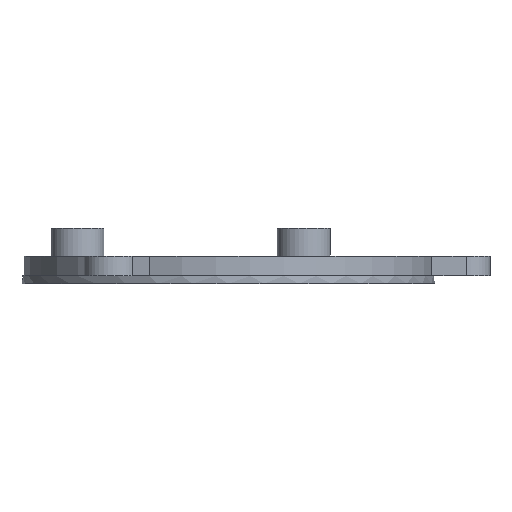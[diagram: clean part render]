
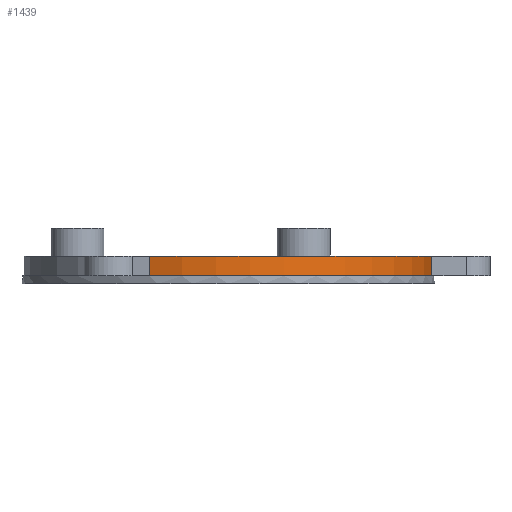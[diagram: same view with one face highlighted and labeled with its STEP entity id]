
A CAD part, left-side view. The second image highlights one B-rep face of the part: STEP entity #1439.
In plain terms, the highlighted cylindrical face has radius 15.5 mm (diameter 31 mm), a partial arc.
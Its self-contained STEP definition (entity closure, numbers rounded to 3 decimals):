
#101 = PLANE('',#102);
#102 = AXIS2_PLACEMENT_3D('',#103,#104,#105);
#103 = CARTESIAN_POINT('',(0.,0.,4.2));
#104 = DIRECTION('',(0.,0.,1.));
#105 = DIRECTION('',(1.,0.,-0.));
#473 = VERTEX_POINT('',#474);
#474 = CARTESIAN_POINT('',(-14.311,5.953,4.2));
#488 = PLANE('',#489);
#489 = AXIS2_PLACEMENT_3D('',#490,#491,#492);
#490 = CARTESIAN_POINT('',(-13.99,5.768,2.7));
#491 = DIRECTION('',(-0.5,-0.866,0.));
#492 = DIRECTION('',(0.,0.,1.));
#500 = EDGE_CURVE('',#473,#501,#503,.T.);
#501 = VERTEX_POINT('',#502);
#502 = CARTESIAN_POINT('',(-2.,-15.37,4.2));
#503 = SURFACE_CURVE('',#504,(#509,#516),.PCURVE_S1.);
#504 = CIRCLE('',#505,15.5);
#505 = AXIS2_PLACEMENT_3D('',#506,#507,#508);
#506 = CARTESIAN_POINT('',(0.,0.,4.2));
#507 = DIRECTION('',(0.,0.,1.));
#508 = DIRECTION('',(1.,0.,-0.));
#509 = PCURVE('',#101,#510);
#510 = DEFINITIONAL_REPRESENTATION('',(#511),#515);
#511 = CIRCLE('',#512,15.5);
#512 = AXIS2_PLACEMENT_2D('',#513,#514);
#513 = CARTESIAN_POINT('',(0.,0.));
#514 = DIRECTION('',(1.,0.));
#515 = ( GEOMETRIC_REPRESENTATION_CONTEXT(2) 
PARAMETRIC_REPRESENTATION_CONTEXT() REPRESENTATION_CONTEXT('2D SPACE',''
  ) );
#516 = PCURVE('',#517,#522);
#517 = CYLINDRICAL_SURFACE('',#518,15.5);
#518 = AXIS2_PLACEMENT_3D('',#519,#520,#521);
#519 = CARTESIAN_POINT('',(0.,0.,2.7));
#520 = DIRECTION('',(0.,0.,1.));
#521 = DIRECTION('',(1.,0.,-0.));
#522 = DEFINITIONAL_REPRESENTATION('',(#523),#527);
#523 = LINE('',#524,#525);
#524 = CARTESIAN_POINT('',(0.,1.5));
#525 = VECTOR('',#526,1.);
#526 = DIRECTION('',(1.,0.));
#527 = ( GEOMETRIC_REPRESENTATION_CONTEXT(2) 
PARAMETRIC_REPRESENTATION_CONTEXT() REPRESENTATION_CONTEXT('2D SPACE',''
  ) );
#545 = PLANE('',#546);
#546 = AXIS2_PLACEMENT_3D('',#547,#548,#549);
#547 = CARTESIAN_POINT('',(-2.,-15.,2.7));
#548 = DIRECTION('',(1.,0.,0.));
#549 = DIRECTION('',(0.,0.,1.));
#1123 = PLANE('',#1124);
#1124 = AXIS2_PLACEMENT_3D('',#1125,#1126,#1127);
#1125 = CARTESIAN_POINT('',(0.,0.,2.7));
#1126 = DIRECTION('',(0.,0.,1.));
#1127 = DIRECTION('',(1.,0.,-0.));
#1439 = ADVANCED_FACE('',(#1440),#517,.T.);
#1440 = FACE_BOUND('',#1441,.T.);
#1441 = EDGE_LOOP('',(#1442,#1464,#1465,#1487));
#1442 = ORIENTED_EDGE('',*,*,#1443,.T.);
#1443 = EDGE_CURVE('',#1444,#501,#1446,.T.);
#1444 = VERTEX_POINT('',#1445);
#1445 = CARTESIAN_POINT('',(-2.,-15.37,2.7));
#1446 = SURFACE_CURVE('',#1447,(#1451,#1457),.PCURVE_S1.);
#1447 = LINE('',#1448,#1449);
#1448 = CARTESIAN_POINT('',(-2.,-15.37,2.7));
#1449 = VECTOR('',#1450,1.);
#1450 = DIRECTION('',(0.,0.,1.));
#1451 = PCURVE('',#517,#1452);
#1452 = DEFINITIONAL_REPRESENTATION('',(#1453),#1456);
#1453 = B_SPLINE_CURVE_WITH_KNOTS('',1,(#1454,#1455),.UNSPECIFIED.,.F.,
  .F.,(2,2),(0.,1.5),.PIECEWISE_BEZIER_KNOTS.);
#1454 = CARTESIAN_POINT('',(4.583,0.));
#1455 = CARTESIAN_POINT('',(4.583,1.5));
#1456 = ( GEOMETRIC_REPRESENTATION_CONTEXT(2) 
PARAMETRIC_REPRESENTATION_CONTEXT() REPRESENTATION_CONTEXT('2D SPACE',''
  ) );
#1457 = PCURVE('',#545,#1458);
#1458 = DEFINITIONAL_REPRESENTATION('',(#1459),#1463);
#1459 = LINE('',#1460,#1461);
#1460 = CARTESIAN_POINT('',(0.,0.37));
#1461 = VECTOR('',#1462,1.);
#1462 = DIRECTION('',(1.,0.));
#1463 = ( GEOMETRIC_REPRESENTATION_CONTEXT(2) 
PARAMETRIC_REPRESENTATION_CONTEXT() REPRESENTATION_CONTEXT('2D SPACE',''
  ) );
#1464 = ORIENTED_EDGE('',*,*,#500,.F.);
#1465 = ORIENTED_EDGE('',*,*,#1466,.F.);
#1466 = EDGE_CURVE('',#1467,#473,#1469,.T.);
#1467 = VERTEX_POINT('',#1468);
#1468 = CARTESIAN_POINT('',(-14.311,5.953,2.7));
#1469 = SURFACE_CURVE('',#1470,(#1474,#1480),.PCURVE_S1.);
#1470 = LINE('',#1471,#1472);
#1471 = CARTESIAN_POINT('',(-14.311,5.953,2.7));
#1472 = VECTOR('',#1473,1.);
#1473 = DIRECTION('',(0.,0.,1.));
#1474 = PCURVE('',#517,#1475);
#1475 = DEFINITIONAL_REPRESENTATION('',(#1476),#1479);
#1476 = B_SPLINE_CURVE_WITH_KNOTS('',1,(#1477,#1478),.UNSPECIFIED.,.F.,
  .F.,(2,2),(0.,1.5),.PIECEWISE_BEZIER_KNOTS.);
#1477 = CARTESIAN_POINT('',(2.747,0.));
#1478 = CARTESIAN_POINT('',(2.747,1.5));
#1479 = ( GEOMETRIC_REPRESENTATION_CONTEXT(2) 
PARAMETRIC_REPRESENTATION_CONTEXT() REPRESENTATION_CONTEXT('2D SPACE',''
  ) );
#1480 = PCURVE('',#488,#1481);
#1481 = DEFINITIONAL_REPRESENTATION('',(#1482),#1486);
#1482 = LINE('',#1483,#1484);
#1483 = CARTESIAN_POINT('',(0.,0.37));
#1484 = VECTOR('',#1485,1.);
#1485 = DIRECTION('',(1.,0.));
#1486 = ( GEOMETRIC_REPRESENTATION_CONTEXT(2) 
PARAMETRIC_REPRESENTATION_CONTEXT() REPRESENTATION_CONTEXT('2D SPACE',''
  ) );
#1487 = ORIENTED_EDGE('',*,*,#1488,.T.);
#1488 = EDGE_CURVE('',#1467,#1444,#1489,.T.);
#1489 = SURFACE_CURVE('',#1490,(#1495,#1502),.PCURVE_S1.);
#1490 = CIRCLE('',#1491,15.5);
#1491 = AXIS2_PLACEMENT_3D('',#1492,#1493,#1494);
#1492 = CARTESIAN_POINT('',(0.,0.,2.7));
#1493 = DIRECTION('',(0.,0.,1.));
#1494 = DIRECTION('',(1.,0.,-0.));
#1495 = PCURVE('',#517,#1496);
#1496 = DEFINITIONAL_REPRESENTATION('',(#1497),#1501);
#1497 = LINE('',#1498,#1499);
#1498 = CARTESIAN_POINT('',(0.,0.));
#1499 = VECTOR('',#1500,1.);
#1500 = DIRECTION('',(1.,0.));
#1501 = ( GEOMETRIC_REPRESENTATION_CONTEXT(2) 
PARAMETRIC_REPRESENTATION_CONTEXT() REPRESENTATION_CONTEXT('2D SPACE',''
  ) );
#1502 = PCURVE('',#1123,#1503);
#1503 = DEFINITIONAL_REPRESENTATION('',(#1504),#1508);
#1504 = CIRCLE('',#1505,15.5);
#1505 = AXIS2_PLACEMENT_2D('',#1506,#1507);
#1506 = CARTESIAN_POINT('',(0.,0.));
#1507 = DIRECTION('',(1.,0.));
#1508 = ( GEOMETRIC_REPRESENTATION_CONTEXT(2) 
PARAMETRIC_REPRESENTATION_CONTEXT() REPRESENTATION_CONTEXT('2D SPACE',''
  ) );
